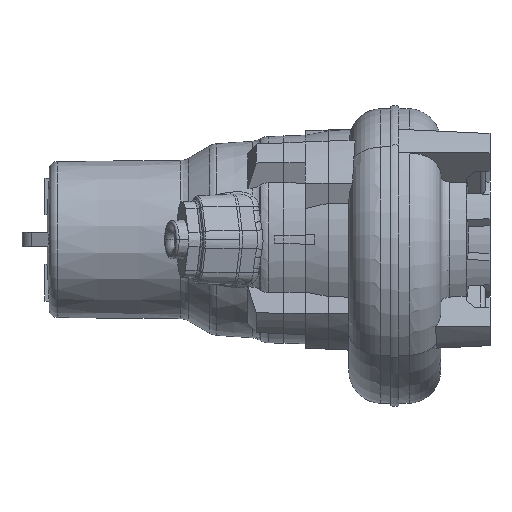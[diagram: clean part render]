
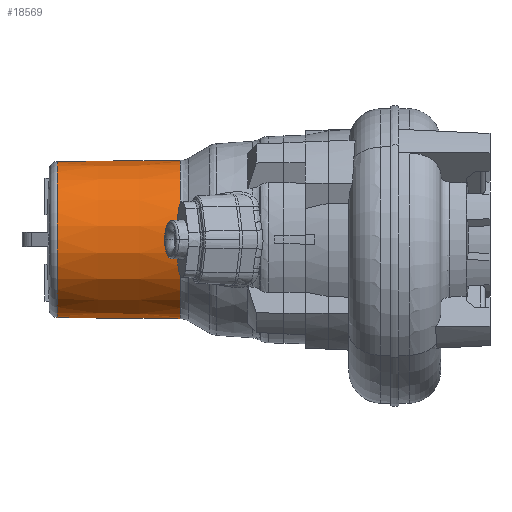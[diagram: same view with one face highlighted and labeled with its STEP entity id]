
A CAD part, left-side view. The second image highlights one B-rep face of the part: STEP entity #18569.
In plain terms, the highlighted conical face has half-angle 0.524 degrees and reference radius 95 mm.
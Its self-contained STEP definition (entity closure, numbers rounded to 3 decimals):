
#341 = DIRECTION ( 'NONE',  ( 0., -1., 0. ) ) ;
#1282 = ORIENTED_EDGE ( 'NONE', *, *, #4866, .T. ) ;
#1610 = DIRECTION ( 'NONE',  ( 0., 0., -1. ) ) ;
#2029 = VERTEX_POINT ( 'NONE', #23715 ) ;
#3544 = EDGE_CURVE ( 'NONE', #23728, #25187, #14642, .T. ) ;
#3797 = CARTESIAN_POINT ( 'NONE',  ( 0., 288., 0. ) ) ;
#4852 = CIRCLE ( 'NONE', #17726, 96.452 ) ;
#4866 = EDGE_CURVE ( 'NONE', #2029, #11306, #9214, .T. ) ;
#5219 = DIRECTION ( 'NONE',  ( 0., 0., 1. ) ) ;
#7052 = DIRECTION ( 'NONE',  ( 0., -1., -0.009 ) ) ;
#7089 = CARTESIAN_POINT ( 'NONE',  ( 0., 278.855, 0. ) ) ;
#8199 = ORIENTED_EDGE ( 'NONE', *, *, #11532, .T. ) ;
#8271 = ORIENTED_EDGE ( 'NONE', *, *, #3544, .F. ) ;
#9214 = LINE ( 'NONE', #26796, #19022 ) ;
#9912 = CIRCLE ( 'NONE', #19536, 95.084 ) ;
#10675 = EDGE_CURVE ( 'NONE', #11306, #25187, #4852, .T. ) ;
#11306 = VERTEX_POINT ( 'NONE', #16113 ) ;
#11532 = EDGE_CURVE ( 'NONE', #23728, #2029, #9912, .T. ) ;
#12189 = CARTESIAN_POINT ( 'NONE',  ( 0., 288., 95. ) ) ;
#12606 = DIRECTION ( 'NONE',  ( 0., -1., 0. ) ) ;
#12857 = CONICAL_SURFACE ( 'NONE', #16537, 95., 0.009 ) ;
#14413 = CARTESIAN_POINT ( 'NONE',  ( 0., 278.855, 95.084 ) ) ;
#14642 = LINE ( 'NONE', #12189, #18504 ) ;
#15017 = EDGE_LOOP ( 'NONE', ( #8271, #8199, #1282, #17275 ) ) ;
#16113 = CARTESIAN_POINT ( 'NONE',  ( 0., 129.261, -96.452 ) ) ;
#16362 = FACE_OUTER_BOUND ( 'NONE', #15017, .T. ) ;
#16537 = AXIS2_PLACEMENT_3D ( 'NONE', #3797, #12606, #24097 ) ;
#17275 = ORIENTED_EDGE ( 'NONE', *, *, #10675, .T. ) ;
#17726 = AXIS2_PLACEMENT_3D ( 'NONE', #19600, #28090, #1610 ) ;
#18504 = VECTOR ( 'NONE', #21246, 1000. ) ;
#18569 = ADVANCED_FACE ( 'NONE', ( #16362 ), #12857, .T. ) ;
#19022 = VECTOR ( 'NONE', #7052, 1000. ) ;
#19536 = AXIS2_PLACEMENT_3D ( 'NONE', #7089, #341, #5219 ) ;
#19600 = CARTESIAN_POINT ( 'NONE',  ( 0., 129.261, 0. ) ) ;
#20810 = CARTESIAN_POINT ( 'NONE',  ( 0., 129.261, 96.452 ) ) ;
#21246 = DIRECTION ( 'NONE',  ( 0., -1., 0.009 ) ) ;
#23715 = CARTESIAN_POINT ( 'NONE',  ( 0., 278.855, -95.084 ) ) ;
#23728 = VERTEX_POINT ( 'NONE', #14413 ) ;
#24097 = DIRECTION ( 'NONE',  ( 0., 0., -1. ) ) ;
#25187 = VERTEX_POINT ( 'NONE', #20810 ) ;
#26796 = CARTESIAN_POINT ( 'NONE',  ( 0., 288., -95. ) ) ;
#28090 = DIRECTION ( 'NONE',  ( 0., 1., 0. ) ) ;
